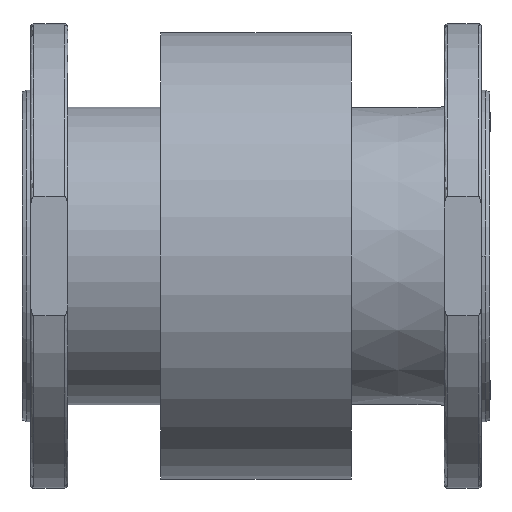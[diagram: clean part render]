
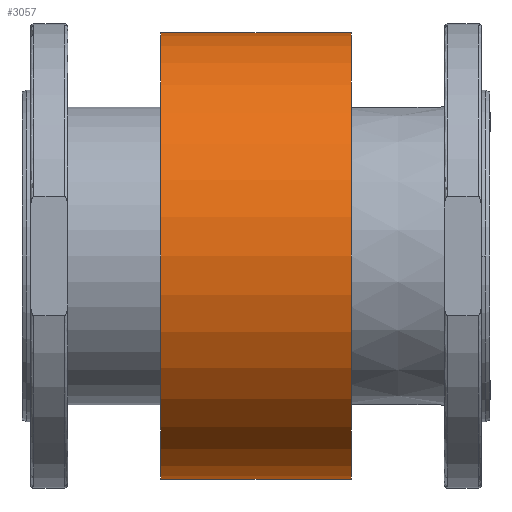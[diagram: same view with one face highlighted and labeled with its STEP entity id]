
A CAD part, front view. The second image highlights one B-rep face of the part: STEP entity #3057.
In plain terms, the highlighted cylindrical face has radius 144 mm (diameter 288 mm), a partial arc.
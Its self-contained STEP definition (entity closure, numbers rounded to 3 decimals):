
#658 = CARTESIAN_POINT ( 'NONE',  ( 79.517, -8.716, 473. ) ) ;
#895 = DIRECTION ( 'NONE',  ( -1., 0., 0. ) ) ;
#1040 = VERTEX_POINT ( 'NONE', #9650 ) ;
#1152 = CYLINDRICAL_SURFACE ( 'NONE', #4658, 144. ) ;
#1441 = VECTOR ( 'NONE', #3398, 1000. ) ;
#1664 = AXIS2_PLACEMENT_3D ( 'NONE', #10431, #6375, #8747 ) ;
#1699 = ORIENTED_EDGE ( 'NONE', *, *, #7845, .T. ) ;
#2248 = CIRCLE ( 'NONE', #1664, 144. ) ;
#2340 = VECTOR ( 'NONE', #9603, 1000. ) ;
#2534 = VERTEX_POINT ( 'NONE', #3744 ) ;
#2684 = LINE ( 'NONE', #5749, #2340 ) ;
#2910 = CARTESIAN_POINT ( 'NONE',  ( 202.517, -8.716, 329. ) ) ;
#2956 = CIRCLE ( 'NONE', #3468, 144. ) ;
#3057 = ADVANCED_FACE ( 'NONE', ( #5311 ), #1152, .T. ) ;
#3322 = ORIENTED_EDGE ( 'NONE', *, *, #4421, .T. ) ;
#3398 = DIRECTION ( 'NONE',  ( -1., 0., 0. ) ) ;
#3436 = ORIENTED_EDGE ( 'NONE', *, *, #5171, .F. ) ;
#3468 = AXIS2_PLACEMENT_3D ( 'NONE', #658, #8042, #5577 ) ;
#3552 = LINE ( 'NONE', #6517, #1441 ) ;
#3744 = CARTESIAN_POINT ( 'NONE',  ( 79.517, -8.716, 617. ) ) ;
#4421 = EDGE_CURVE ( 'NONE', #6543, #2534, #2684, .T. ) ;
#4658 = AXIS2_PLACEMENT_3D ( 'NONE', #5833, #895, #4929 ) ;
#4929 = DIRECTION ( 'NONE',  ( 0., 0., 1. ) ) ;
#5171 = EDGE_CURVE ( 'NONE', #5668, #1040, #3552, .T. ) ;
#5311 = FACE_OUTER_BOUND ( 'NONE', #7718, .T. ) ;
#5448 = CARTESIAN_POINT ( 'NONE',  ( 202.517, -8.716, 617. ) ) ;
#5577 = DIRECTION ( 'NONE',  ( 0., 0., 1. ) ) ;
#5668 = VERTEX_POINT ( 'NONE', #2910 ) ;
#5715 = EDGE_CURVE ( 'NONE', #1040, #2534, #2956, .T. ) ;
#5749 = CARTESIAN_POINT ( 'NONE',  ( -22.564, -8.716, 617. ) ) ;
#5833 = CARTESIAN_POINT ( 'NONE',  ( -22.564, -8.716, 473. ) ) ;
#6375 = DIRECTION ( 'NONE',  ( -1., 0., 0. ) ) ;
#6517 = CARTESIAN_POINT ( 'NONE',  ( -22.564, -8.716, 329. ) ) ;
#6543 = VERTEX_POINT ( 'NONE', #5448 ) ;
#7718 = EDGE_LOOP ( 'NONE', ( #3436, #1699, #3322, #8742 ) ) ;
#7845 = EDGE_CURVE ( 'NONE', #5668, #6543, #2248, .T. ) ;
#8042 = DIRECTION ( 'NONE',  ( -1., 0., 0. ) ) ;
#8742 = ORIENTED_EDGE ( 'NONE', *, *, #5715, .F. ) ;
#8747 = DIRECTION ( 'NONE',  ( 0., 0., 1. ) ) ;
#9603 = DIRECTION ( 'NONE',  ( -1., 0., 0. ) ) ;
#9650 = CARTESIAN_POINT ( 'NONE',  ( 79.517, -8.716, 329. ) ) ;
#10431 = CARTESIAN_POINT ( 'NONE',  ( 202.517, -8.716, 473. ) ) ;
